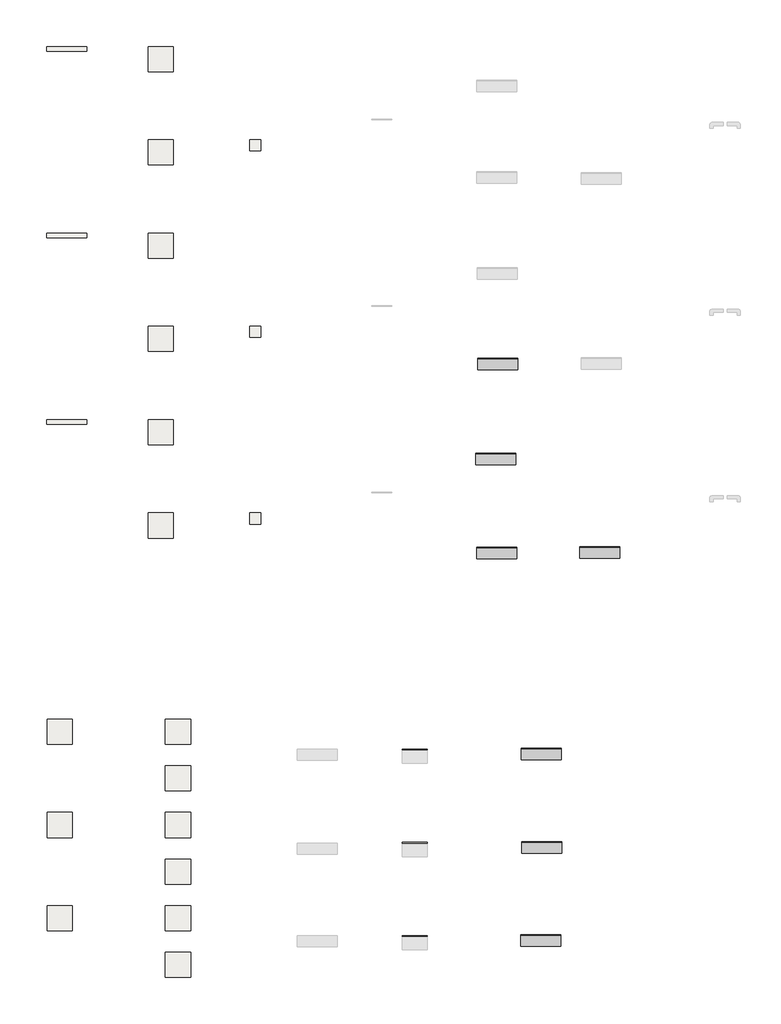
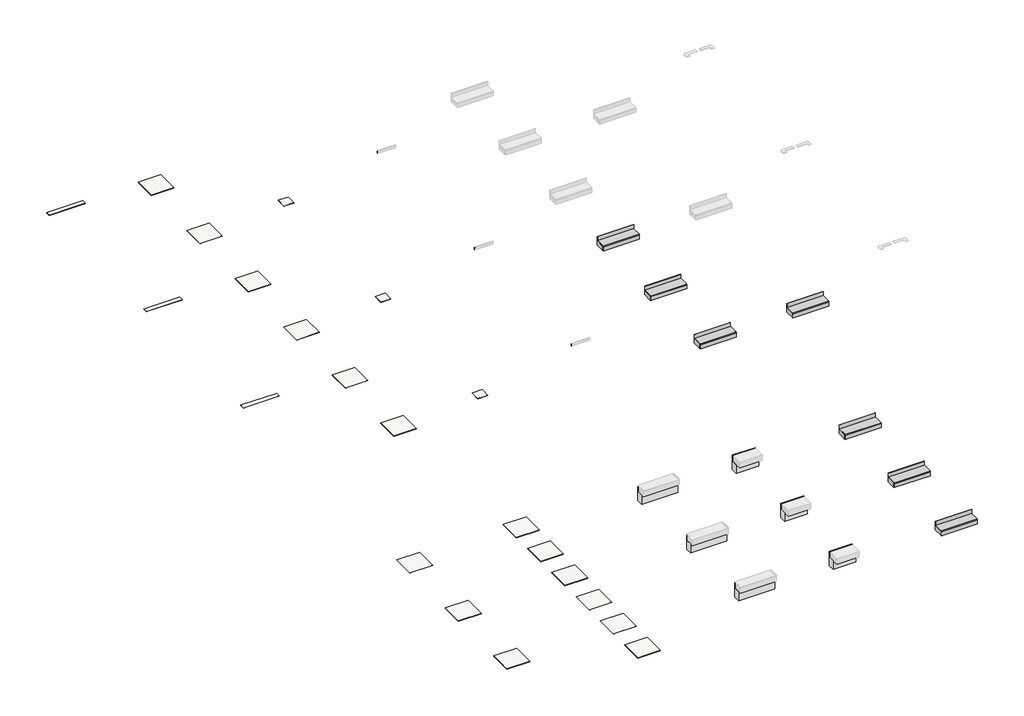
# One storey, part 1 of 2: 21 slabs, 9 walls, 7 stair flights.
"""IFC4 building model written with IfcOpenShell, lengths in millimetres."""

from ifc_helpers import new_model, si_unit, frame, origin, place, context, project, spatial, polyline, outline, extrude, faceted_brep, element, save

model = new_model("IFC4")

# Units and contexts
model_context = context("Model", 3, world=origin())
ifc_project = project(units=[si_unit("LENGTHUNIT", "METRE", prefix="MILLI")], contexts=[model_context])

# Site, building, storey
site = spatial("IfcSite", under=ifc_project)
building = spatial("IfcBuilding", under=site)
storey = spatial("IfcBuildingStorey", under=building, Name="EXAGRES_Serie MILAN_Catalogo", Elevation=5000.0)

# Slabs
placement = place(None, origin())
element("IfcSlab", 1, ObjectType="Exagres_Milan_Arena_Base_14,5x120_C1_Rect", at=placement, inside=storey, context=model_context, shape_type="SweptSolid", body=[
    extrude(outline(polyline([(-28.1781102, 784.4826442), (-28.1781102, 637.4826442), (-1230.1781102, 637.4826442), (-1230.1781102, 784.4826442), (-28.1781102, 784.4826442)])), frame((0.0, 0.0, 4989.0), z_axis=(0.0, 0.0, 1.0), x_axis=(1.0, 0.0, 0.0)), (0.0, 0.0, 1.0), 11.0),
])
element("IfcSlab", 2, ObjectType="Exagres_Milan_Gris_Base_14,5x120_C1_Rect", at=placement, inside=storey, context=model_context, shape_type="SweptSolid", body=[
    extrude(outline(polyline([(-28.1781102, -4815.5173558), (-28.1781102, -4962.5173558), (-1230.1781102, -4962.5173558), (-1230.1781102, -4815.5173558), (-28.1781102, -4815.5173558)])), frame((0.0, 0.0, 4989.0), z_axis=(0.0, 0.0, 1.0), x_axis=(1.0, 0.0, 0.0)), (0.0, 0.0, 1.0), 11.0),
])
element("IfcSlab", 3, ObjectType="Exagres_Milan_Marengo_Base_14,5x120_C1_Rect", at=placement, inside=storey, context=model_context, shape_type="SweptSolid", body=[
    extrude(outline(polyline([(-28.1781102, -10415.5173558), (-28.1781102, -10562.5173558), (-1230.1781102, -10562.5173558), (-1230.1781102, -10415.5173558), (-28.1781102, -10415.5173558)])), frame((0.0, 0.0, 4989.0), z_axis=(0.0, 0.0, 1.0), x_axis=(1.0, 0.0, 0.0)), (0.0, 0.0, 1.0), 11.0),
])
element("IfcSlab", 4, ObjectType="Exagres_Milan_Arena_Base_75x75_C1_Rect", at=placement, inside=storey, context=model_context, shape_type="SweptSolid", body=[
    extrude(outline(polyline([(2571.8218898, 784.4826442), (2571.8218898, 32.4826442), (1819.8218898, 32.4826442), (1819.8218898, 784.4826442), (2571.8218898, 784.4826442)])), frame((0.0, 0.0, 4989.0), z_axis=(0.0, 0.0, 1.0), x_axis=(1.0, 0.0, 0.0)), (0.0, 0.0, 1.0), 11.0),
])
element("IfcSlab", 5, ObjectType="Exagres_Milan_Arena_Base_75x75_C3_Rect", at=placement, inside=storey, context=model_context, shape_type="SweptSolid", body=[
    extrude(outline(polyline([(2574.8218898, -2015.5173558), (2574.8218898, -2770.5173558), (1819.8218898, -2770.5173558), (1819.8218898, -2015.5173558), (2574.8218898, -2015.5173558)])), frame((0.0, 0.0, 4989.0), z_axis=(0.0, 0.0, 1.0), x_axis=(1.0, 0.0, 0.0)), (0.0, 0.0, 1.0), 11.0),
])
element("IfcSlab", 6, ObjectType="Exagres_Milan_Gris_Base_75x75_C1_Rect", at=placement, inside=storey, context=model_context, shape_type="SweptSolid", body=[
    extrude(outline(polyline([(2571.8218898, -4815.5173558), (2571.8218898, -5567.5173558), (1819.8218898, -5567.5173558), (1819.8218898, -4815.5173558), (2571.8218898, -4815.5173558)])), frame((0.0, 0.0, 4989.0), z_axis=(0.0, 0.0, 1.0), x_axis=(1.0, 0.0, 0.0)), (0.0, 0.0, 1.0), 11.0),
])
element("IfcSlab", 7, ObjectType="Exagres_Milan_Gris_Base_75x75_C3_Rect", at=placement, inside=storey, context=model_context, shape_type="SweptSolid", body=[
    extrude(outline(polyline([(2574.8218898, -7615.5173558), (2574.8218898, -8370.5173558), (1819.8218898, -8370.5173558), (1819.8218898, -7615.5173558), (2574.8218898, -7615.5173558)])), frame((0.0, 0.0, 4989.0), z_axis=(0.0, 0.0, 1.0), x_axis=(1.0, 0.0, 0.0)), (0.0, 0.0, 1.0), 11.0),
])
element("IfcSlab", 8, ObjectType="Exagres_Milan_Marengo_Base_75x75_C1_Rect", at=placement, inside=storey, context=model_context, shape_type="SweptSolid", body=[
    extrude(outline(polyline([(2571.8218898, -10415.5173558), (2571.8218898, -11167.5173558), (1819.8218898, -11167.5173558), (1819.8218898, -10415.5173558), (2571.8218898, -10415.5173558)])), frame((0.0, 0.0, 4989.0), z_axis=(0.0, 0.0, 1.0), x_axis=(1.0, 0.0, 0.0)), (0.0, 0.0, 1.0), 11.0),
])
element("IfcSlab", 9, ObjectType="Exagres_Milan_Marengo_Base_75x75_C3_Rect", at=placement, inside=storey, context=model_context, shape_type="SweptSolid", body=[
    extrude(outline(polyline([(2574.8218898, -13215.5173558), (2574.8218898, -13970.5173558), (1819.8218898, -13970.5173558), (1819.8218898, -13215.5173558), (2574.8218898, -13215.5173558)])), frame((0.0, 0.0, 4989.0), z_axis=(0.0, 0.0, 1.0), x_axis=(1.0, 0.0, 0.0)), (0.0, 0.0, 1.0), 11.0),
])
element("IfcSlab", 10, ObjectType="Exagres_Milan_Arena_Base_33x33_C3", at=placement, inside=storey, context=model_context, shape_type="SweptSolid", body=[
    extrude(outline(polyline([(5204.8218898, -2015.5173558), (5204.8218898, -2350.5173558), (4869.8218898, -2350.5173558), (4869.8218898, -2015.5173558), (5204.8218898, -2015.5173558)])), frame((0.0, 0.0, 4990.0), z_axis=(0.0, 0.0, 1.0), x_axis=(1.0, 0.0, 0.0)), (0.0, 0.0, 1.0), 10.0),
])
element("IfcSlab", 11, ObjectType="Exagres_Milan_Gris_Base_33x33_C3", at=placement, inside=storey, context=model_context, shape_type="SweptSolid", body=[
    extrude(outline(polyline([(5204.8218898, -7615.5173558), (5204.8218898, -7950.5173558), (4869.8218898, -7950.5173558), (4869.8218898, -7615.5173558), (5204.8218898, -7615.5173558)])), frame((0.0, 0.0, 4990.0), z_axis=(0.0, 0.0, 1.0), x_axis=(1.0, 0.0, 0.0)), (0.0, 0.0, 1.0), 10.0),
])
element("IfcSlab", 12, ObjectType="Exagres_Milan_Marengo_Base_33x33_C3", at=placement, inside=storey, context=model_context, shape_type="SweptSolid", body=[
    extrude(outline(polyline([(5204.8218898, -13215.5173558), (5204.8218898, -13550.5173558), (4869.8218898, -13550.5173558), (4869.8218898, -13215.5173558), (5204.8218898, -13215.5173558)])), frame((0.0, 0.0, 4990.0), z_axis=(0.0, 0.0, 1.0), x_axis=(1.0, 0.0, 0.0)), (0.0, 0.0, 1.0), 10.0),
])
element("IfcSlab", 13, ObjectType="Exagres_Milan_Arena_Piscina_75x75_C1_Rect", at=placement, inside=storey, context=model_context, shape_type="SweptSolid", body=[
    extrude(outline(polyline([(-457.155725, -19408.4497575), (-457.155725, -20163.4497575), (-1212.155725, -20163.4497575), (-1212.155725, -19408.4497575), (-457.155725, -19408.4497575)])), frame((0.0, 0.0, 4989.0), z_axis=(0.0, 0.0, 1.0), x_axis=(1.0, 0.0, 0.0)), (0.0, 0.0, 1.0), 11.0),
])
element("IfcSlab", 14, ObjectType="Exagres_Milan_Arena_Piscina_75x75_C3_Rect", at=placement, inside=storey, context=model_context, shape_type="SweptSolid", body=[
    extrude(outline(polyline([(3092.844275, -20808.4497575), (3092.844275, -21563.4497575), (2337.844275, -21563.4497575), (2337.844275, -20808.4497575), (3092.844275, -20808.4497575)])), frame((0.0, 0.0, 4989.0), z_axis=(0.0, 0.0, 1.0), x_axis=(1.0, 0.0, 0.0)), (0.0, 0.0, 1.0), 11.0),
])
element("IfcSlab", 15, ObjectType="Exagres_Milan_Gris_Piscina_75x75_C1_Rect", at=placement, inside=storey, context=model_context, shape_type="SweptSolid", body=[
    extrude(outline(polyline([(-457.155725, -22208.4497575), (-457.155725, -22963.4497575), (-1212.155725, -22963.4497575), (-1212.155725, -22208.4497575), (-457.155725, -22208.4497575)])), frame((0.0, 0.0, 4989.0), z_axis=(0.0, 0.0, 1.0), x_axis=(1.0, 0.0, 0.0)), (0.0, 0.0, 1.0), 11.0),
])
element("IfcSlab", 16, ObjectType="Exagres_Milan_Gris_Piscina_75x75_C3_Rect", at=placement, inside=storey, context=model_context, shape_type="SweptSolid", body=[
    extrude(outline(polyline([(3092.844275, -23608.4497575), (3092.844275, -24363.4497575), (2337.844275, -24363.4497575), (2337.844275, -23608.4497575), (3092.844275, -23608.4497575)])), frame((0.0, 0.0, 4989.0), z_axis=(0.0, 0.0, 1.0), x_axis=(1.0, 0.0, 0.0)), (0.0, 0.0, 1.0), 11.0),
])
element("IfcSlab", 17, ObjectType="Exagres_Milan_Marengo_Piscina_75x75_C1_Rect", at=placement, inside=storey, context=model_context, shape_type="SweptSolid", body=[
    extrude(outline(polyline([(-457.155725, -25008.4497575), (-457.155725, -25763.4497575), (-1212.155725, -25763.4497575), (-1212.155725, -25008.4497575), (-457.155725, -25008.4497575)])), frame((0.0, 0.0, 4989.0), z_axis=(0.0, 0.0, 1.0), x_axis=(1.0, 0.0, 0.0)), (0.0, 0.0, 1.0), 11.0),
])
element("IfcSlab", 18, ObjectType="Exagres_Milan_Marengo_Piscina_75x75_C3_Rect", at=placement, inside=storey, context=model_context, shape_type="SweptSolid", body=[
    extrude(outline(polyline([(3092.844275, -26408.4497575), (3092.844275, -27163.4497575), (2337.844275, -27163.4497575), (2337.844275, -26408.4497575), (3092.844275, -26408.4497575)])), frame((0.0, 0.0, 4989.0), z_axis=(0.0, 0.0, 1.0), x_axis=(1.0, 0.0, 0.0)), (0.0, 0.0, 1.0), 11.0),
])
element("IfcSlab", 19, ObjectType="Exagres_Milan_Arena_Piscina_75x75_C1_Rect", at=placement, inside=storey, context=model_context, shape_type="SweptSolid", body=[
    extrude(outline(polyline([(3092.844275, -19408.4497575), (3092.844275, -20163.4497575), (2337.844275, -20163.4497575), (2337.844275, -19408.4497575), (3092.844275, -19408.4497575)])), frame((0.0, 0.0, 4989.0), z_axis=(0.0, 0.0, 1.0), x_axis=(1.0, 0.0, 0.0)), (0.0, 0.0, 1.0), 11.0),
])
element("IfcSlab", 20, ObjectType="Exagres_Milan_Gris_Piscina_75x75_C1_Rect", at=placement, inside=storey, context=model_context, shape_type="SweptSolid", body=[
    extrude(outline(polyline([(3092.844275, -22208.4497575), (3092.844275, -22963.4497575), (2337.844275, -22963.4497575), (2337.844275, -22208.4497575), (3092.844275, -22208.4497575)])), frame((0.0, 0.0, 4989.0), z_axis=(0.0, 0.0, 1.0), x_axis=(1.0, 0.0, 0.0)), (0.0, 0.0, 1.0), 11.0),
])
element("IfcSlab", 21, ObjectType="Exagres_Milan_Marengo_Piscina_75x75_C1_Rect", at=placement, inside=storey, context=model_context, shape_type="SweptSolid", body=[
    extrude(outline(polyline([(3092.844275, -25008.4497575), (3092.844275, -25763.4497575), (2337.844275, -25763.4497575), (2337.844275, -25008.4497575), (3092.844275, -25008.4497575)])), frame((0.0, 0.0, 4989.0), z_axis=(0.0, 0.0, 1.0), x_axis=(1.0, 0.0, 0.0)), (0.0, 0.0, 1.0), 11.0),
])

# Stair flights
element("IfcStairFlight", 22, ObjectType="EXAGRES_Recto - Milán Gris C3", at=placement, inside=storey, context=model_context, shape_type="SweptSolid", body=[
    extrude(outline(polyline([(11721.0701188, -8906.3577504), (11721.0701188, -8576.3577504), (12921.0701188, -8576.3577504), (12921.0701188, -8906.3577504), (11721.0701188, -8906.3577504)])), frame((0.0, 0.0, 5000.0), z_axis=(0.0, 0.0, 1.0), x_axis=(1.0, 0.0, 0.0)), (0.0, 0.0, 1.0), 151.6666667),
    extrude(outline(polyline([(-8576.3577504, 5151.6666667), (-8903.4482015, 5151.6666667), (-8903.4482015, 5154.6666667), (-8908.3577504, 5154.6666667), (-8908.3577504, 5147.6666667), (-8909.3577504, 5147.6666667), (-8909.3577504, 5141.6666667), (-8908.3577504, 5141.6666667), (-8908.3577504, 5133.6666667), (-8921.3577504, 5133.6666667), (-8921.3577504, 5166.6666667), (-8576.3577504, 5166.6666667), (-8576.3577504, 5151.6666667)])), frame((11721.0701188, 0.0, 0.0), z_axis=(1.0, 0.0, 0.0), x_axis=(0.0, 1.0, 0.0)), (0.0, 0.0, 1.0), 1200.0),
    extrude(outline(polyline([(12921.0701188, -8906.3577504), (12921.0701188, -8921.3577504), (11721.0701188, -8921.3577504), (11721.0701188, -8906.3577504), (12921.0701188, -8906.3577504)])), frame((0.0, 0.0, 5000.0), z_axis=(0.0, 0.0, 1.0), x_axis=(1.0, 0.0, 0.0)), (0.0, 0.0, 1.0), 133.6666667),
    extrude(outline(polyline([(12921.0701188, -8576.3577504), (12921.0701188, -8591.3577504), (11721.0701188, -8591.3577504), (11721.0701188, -8576.3577504), (12921.0701188, -8576.3577504)])), frame((0.0, 0.0, 5166.6666667), z_axis=(0.0, 0.0, 1.0), x_axis=(1.0, 0.0, 0.0)), (0.0, 0.0, 1.0), 133.6666667),
])
element("IfcStairFlight", 23, ObjectType="EXAGRES_Recto - Milán Marengo C3", at=placement, inside=storey, context=model_context, shape_type="SweptSolid", body=[
    extrude(outline(polyline([(11680.537934, -14572.5839781), (11680.537934, -14242.5839781), (12880.537934, -14242.5839781), (12880.537934, -14572.5839781), (11680.537934, -14572.5839781)])), frame((0.0, 0.0, 5000.0), z_axis=(0.0, 0.0, 1.0), x_axis=(1.0, 0.0, 0.0)), (0.0, 0.0, 1.0), 151.6666667),
    extrude(outline(polyline([(-14242.5839781, 5151.6666667), (-14569.6744292, 5151.6666667), (-14569.6744292, 5154.6666667), (-14574.5839781, 5154.6666667), (-14574.5839781, 5147.6666667), (-14575.5839781, 5147.6666667), (-14575.5839781, 5141.6666667), (-14574.5839781, 5141.6666667), (-14574.5839781, 5133.6666667), (-14587.5839781, 5133.6666667), (-14587.5839781, 5166.6666667), (-14242.5839781, 5166.6666667), (-14242.5839781, 5151.6666667)])), frame((11680.537934, 0.0, 0.0), z_axis=(1.0, 0.0, 0.0), x_axis=(0.0, 1.0, 0.0)), (0.0, 0.0, 1.0), 1200.0),
    extrude(outline(polyline([(12880.537934, -14572.5839781), (12880.537934, -14587.5839781), (11680.537934, -14587.5839781), (11680.537934, -14572.5839781), (12880.537934, -14572.5839781)])), frame((0.0, 0.0, 5000.0), z_axis=(0.0, 0.0, 1.0), x_axis=(1.0, 0.0, 0.0)), (0.0, 0.0, 1.0), 133.6666667),
    extrude(outline(polyline([(12880.537934, -14242.5839781), (12880.537934, -14257.5839781), (11680.537934, -14257.5839781), (11680.537934, -14242.5839781), (12880.537934, -14242.5839781)])), frame((0.0, 0.0, 5166.6666667), z_axis=(0.0, 0.0, 1.0), x_axis=(1.0, 0.0, 0.0)), (0.0, 0.0, 1.0), 133.6666667),
])
element("IfcStairFlight", 24, ObjectType="EXAGRES_Recto - Milán Marengo C1", at=placement, inside=storey, context=model_context, shape_type="SweptSolid", body=[
    extrude(outline(polyline([(11653.0707994, -11752.5173558), (11653.0707994, -11422.5173558), (12853.0707994, -11422.5173558), (12853.0707994, -11752.5173558), (11653.0707994, -11752.5173558)])), frame((0.0, 0.0, 5000.0), z_axis=(0.0, 0.0, 1.0), x_axis=(1.0, 0.0, 0.0)), (0.0, 0.0, 1.0), 151.6666667),
    extrude(outline(polyline([(-11422.5173558, 5151.6666667), (-11749.6078069, 5151.6666667), (-11749.6078069, 5154.6666667), (-11754.5173558, 5154.6666667), (-11754.5173558, 5147.6666667), (-11755.5173558, 5147.6666667), (-11755.5173558, 5141.6666667), (-11754.5173558, 5141.6666667), (-11754.5173558, 5133.6666667), (-11767.5173558, 5133.6666667), (-11767.5173558, 5166.6666667), (-11422.5173558, 5166.6666667), (-11422.5173558, 5151.6666667)])), frame((11653.0707994, 0.0, 0.0), z_axis=(1.0, 0.0, 0.0), x_axis=(0.0, 1.0, 0.0)), (0.0, 0.0, 1.0), 1200.0),
    extrude(outline(polyline([(12853.0707994, -11752.5173558), (12853.0707994, -11767.5173558), (11653.0707994, -11767.5173558), (11653.0707994, -11752.5173558), (12853.0707994, -11752.5173558)])), frame((0.0, 0.0, 5000.0), z_axis=(0.0, 0.0, 1.0), x_axis=(1.0, 0.0, 0.0)), (0.0, 0.0, 1.0), 133.6666667),
    extrude(outline(polyline([(12853.0707994, -11422.5173558), (12853.0707994, -11437.5173558), (11653.0707994, -11437.5173558), (11653.0707994, -11422.5173558), (12853.0707994, -11422.5173558)])), frame((0.0, 0.0, 5166.6666667), z_axis=(0.0, 0.0, 1.0), x_axis=(1.0, 0.0, 0.0)), (0.0, 0.0, 1.0), 133.6666667),
])
element("IfcStairFlight", 25, ObjectType="EXAGRES_Recto_33x33 - Milán Marengo C3", at=placement, inside=storey, context=model_context, shape_type="SweptSolid", body=[
    extrude(outline(polyline([(14777.6650181, -14562.7282448), (14777.6650181, -14232.7282448), (15977.6650181, -14232.7282448), (15977.6650181, -14562.7282448), (14777.6650181, -14562.7282448)])), frame((0.0, 0.0, 5000.0), z_axis=(0.0, 0.0, 1.0), x_axis=(1.0, 0.0, 0.0)), (0.0, 0.0, 1.0), 151.6666667),
    extrude(outline(polyline([(-14232.7282448, 5151.6666667), (-14559.8186959, 5151.6666667), (-14559.8186959, 5154.6666667), (-14564.7282448, 5154.6666667), (-14564.7282448, 5147.6666667), (-14565.7282448, 5147.6666667), (-14565.7282448, 5141.6666667), (-14564.7282448, 5141.6666667), (-14564.7282448, 5133.6666667), (-14577.7282448, 5133.6666667), (-14577.7282448, 5166.6666667), (-14232.7282448, 5166.6666667), (-14232.7282448, 5151.6666667)])), frame((14777.6650181, 0.0, 0.0), z_axis=(1.0, 0.0, 0.0), x_axis=(0.0, 1.0, 0.0)), (0.0, 0.0, 1.0), 1200.0),
    extrude(outline(polyline([(15977.6650181, -14562.7282448), (15977.6650181, -14577.7282448), (14777.6650181, -14577.7282448), (14777.6650181, -14562.7282448), (15977.6650181, -14562.7282448)])), frame((0.0, 0.0, 5000.0), z_axis=(0.0, 0.0, 1.0), x_axis=(1.0, 0.0, 0.0)), (0.0, 0.0, 1.0), 133.6666667),
    extrude(outline(polyline([(15977.6650181, -14232.7282448), (15977.6650181, -14247.7282448), (14777.6650181, -14247.7282448), (14777.6650181, -14232.7282448), (15977.6650181, -14232.7282448)])), frame((0.0, 0.0, 5166.6666667), z_axis=(0.0, 0.0, 1.0), x_axis=(1.0, 0.0, 0.0)), (0.0, 0.0, 1.0), 133.6666667),
])
element("IfcStairFlight", 26, ObjectType="EXAGRES_Recto - Milán Arena C3", at=placement, inside=storey, context=model_context, shape_type="SweptSolid", body=[
    extrude(outline(polyline([(13018.7377741, -20619.625771), (13018.7377741, -20289.625771), (14218.7377741, -20289.625771), (14218.7377741, -20619.625771), (13018.7377741, -20619.625771)])), frame((0.0, 0.0, 5000.0), z_axis=(0.0, 0.0, 1.0), x_axis=(1.0, 0.0, 0.0)), (0.0, 0.0, 1.0), 155.0),
    extrude(outline(polyline([(-20289.625771, 5155.0), (-20616.7162221, 5155.0), (-20616.7162221, 5158.0), (-20621.625771, 5158.0), (-20621.625771, 5151.0), (-20622.625771, 5151.0), (-20622.625771, 5145.0), (-20621.625771, 5145.0), (-20621.625771, 5137.0), (-20634.625771, 5137.0), (-20634.625771, 5170.0), (-20289.625771, 5170.0), (-20289.625771, 5155.0)])), frame((13018.7377741, 0.0, 0.0), z_axis=(1.0, 0.0, 0.0), x_axis=(0.0, 1.0, 0.0)), (0.0, 0.0, 1.0), 1200.0),
    extrude(outline(polyline([(14218.7377741, -20619.625771), (14218.7377741, -20634.625771), (13018.7377741, -20634.625771), (13018.7377741, -20619.625771), (14218.7377741, -20619.625771)])), frame((0.0, 0.0, 5000.0), z_axis=(0.0, 0.0, 1.0), x_axis=(1.0, 0.0, 0.0)), (0.0, 0.0, 1.0), 137.0),
    extrude(outline(polyline([(14218.7377741, -20289.625771), (14218.7377741, -20304.625771), (13018.7377741, -20304.625771), (13018.7377741, -20289.625771), (14218.7377741, -20289.625771)])), frame((0.0, 0.0, 5170.0), z_axis=(0.0, 0.0, 1.0), x_axis=(1.0, 0.0, 0.0)), (0.0, 0.0, 1.0), 137.0),
])
element("IfcStairFlight", 27, ObjectType="EXAGRES_Recto - Milán Gris C3", at=placement, inside=storey, context=model_context, shape_type="SweptSolid", body=[
    extrude(outline(polyline([(13030.5286038, -23426.8241111), (13030.5286038, -23096.8241111), (14230.5286038, -23096.8241111), (14230.5286038, -23426.8241111), (13030.5286038, -23426.8241111)])), frame((0.0, 0.0, 5000.0), z_axis=(0.0, 0.0, 1.0), x_axis=(1.0, 0.0, 0.0)), (0.0, 0.0, 1.0), 155.0),
    extrude(outline(polyline([(-23096.8241111, 5155.0), (-23423.9145622, 5155.0), (-23423.9145622, 5158.0), (-23428.8241111, 5158.0), (-23428.8241111, 5151.0), (-23429.8241111, 5151.0), (-23429.8241111, 5145.0), (-23428.8241111, 5145.0), (-23428.8241111, 5137.0), (-23441.8241111, 5137.0), (-23441.8241111, 5170.0), (-23096.8241111, 5170.0), (-23096.8241111, 5155.0)])), frame((13030.5286038, 0.0, 0.0), z_axis=(1.0, 0.0, 0.0), x_axis=(0.0, 1.0, 0.0)), (0.0, 0.0, 1.0), 1200.0),
    extrude(outline(polyline([(14230.5286038, -23426.8241111), (14230.5286038, -23441.8241111), (13030.5286038, -23441.8241111), (13030.5286038, -23426.8241111), (14230.5286038, -23426.8241111)])), frame((0.0, 0.0, 5000.0), z_axis=(0.0, 0.0, 1.0), x_axis=(1.0, 0.0, 0.0)), (0.0, 0.0, 1.0), 137.0),
    extrude(outline(polyline([(14230.5286038, -23096.8241111), (14230.5286038, -23111.8241111), (13030.5286038, -23111.8241111), (13030.5286038, -23096.8241111), (14230.5286038, -23096.8241111)])), frame((0.0, 0.0, 5170.0), z_axis=(0.0, 0.0, 1.0), x_axis=(1.0, 0.0, 0.0)), (0.0, 0.0, 1.0), 137.0),
])
element("IfcStairFlight", 28, ObjectType="EXAGRES_Recto - Milán Marengo C3", at=placement, inside=storey, context=model_context, shape_type="SweptSolid", body=[
    extrude(outline(polyline([(13000.8480722, -26214.1038833), (13000.8480722, -25884.1038833), (14200.8480722, -25884.1038833), (14200.8480722, -26214.1038833), (13000.8480722, -26214.1038833)])), frame((0.0, 0.0, 5000.0), z_axis=(0.0, 0.0, 1.0), x_axis=(1.0, 0.0, 0.0)), (0.0, 0.0, 1.0), 155.0),
    extrude(outline(polyline([(-25884.1038833, 5155.0), (-26211.1943344, 5155.0), (-26211.1943344, 5158.0), (-26216.1038833, 5158.0), (-26216.1038833, 5151.0), (-26217.1038833, 5151.0), (-26217.1038833, 5145.0), (-26216.1038833, 5145.0), (-26216.1038833, 5137.0), (-26229.1038833, 5137.0), (-26229.1038833, 5170.0), (-25884.1038833, 5170.0), (-25884.1038833, 5155.0)])), frame((13000.8480722, 0.0, 0.0), z_axis=(1.0, 0.0, 0.0), x_axis=(0.0, 1.0, 0.0)), (0.0, 0.0, 1.0), 1200.0),
    extrude(outline(polyline([(14200.8480722, -26214.1038833), (14200.8480722, -26229.1038833), (13000.8480722, -26229.1038833), (13000.8480722, -26214.1038833), (14200.8480722, -26214.1038833)])), frame((0.0, 0.0, 5000.0), z_axis=(0.0, 0.0, 1.0), x_axis=(1.0, 0.0, 0.0)), (0.0, 0.0, 1.0), 137.0),
    extrude(outline(polyline([(14200.8480722, -25884.1038833), (14200.8480722, -25899.1038833), (13000.8480722, -25899.1038833), (13000.8480722, -25884.1038833), (14200.8480722, -25884.1038833)])), frame((0.0, 0.0, 5170.0), z_axis=(0.0, 0.0, 1.0), x_axis=(1.0, 0.0, 0.0)), (0.0, 0.0, 1.0), 137.0),
])

# Walls
element("IfcWall", 29, ObjectType="Muro básico:muro", at=placement, inside=storey, context=model_context, shape_type="SweptSolid", body=[
    extrude(outline(polyline([(9132.990681, -1402.2299086), (8532.990681, -1402.2299086), (8532.990681, -1401.2299086), (9132.990681, -1401.2299086), (9132.990681, -1402.2299086)])), frame((0.0, 0.0, 5000.0), z_axis=(0.0, 0.0, 1.0), x_axis=(1.0, 0.0, 0.0)), (0.0, 0.0, 1.0), 75.0),
])
element("IfcWall", 30, ObjectType="Muro básico:muro", at=placement, inside=storey, context=model_context, shape_type="SweptSolid", body=[
    extrude(outline(polyline([(9132.990681, -7002.2299086), (8532.990681, -7002.2299086), (8532.990681, -7001.2299086), (9132.990681, -7001.2299086), (9132.990681, -7002.2299086)])), frame((0.0, 0.0, 5000.0), z_axis=(0.0, 0.0, 1.0), x_axis=(1.0, 0.0, 0.0)), (0.0, 0.0, 1.0), 75.0),
])
element("IfcWall", 31, ObjectType="Muro básico:muro", at=placement, inside=storey, context=model_context, shape_type="SweptSolid", body=[
    extrude(outline(polyline([(9132.990681, -12602.2299086), (8532.990681, -12602.2299086), (8532.990681, -12601.2299086), (9132.990681, -12601.2299086), (9132.990681, -12602.2299086)])), frame((0.0, 0.0, 5000.0), z_axis=(0.0, 0.0, 1.0), x_axis=(1.0, 0.0, 0.0)), (0.0, 0.0, 1.0), 75.0),
])
element("IfcWall", 32, ObjectType="Exagres_Piscina Skimmer - Peldaño 33x120 - Milan Arena -", at=placement, inside=storey, context=model_context, shape_type="Brep", body=[
    faceted_brep([(6298.0543811, -20533.4497575, 5000.0), (7500.0543811, -20533.4497575, 5000.0), (7500.0543811, -20533.4497575, 5318.74), (6298.0543811, -20533.4497575, 5318.74), (7500.0543811, -20308.4497575, 5000.0), (6298.0543811, -20308.4497575, 5000.0), (6298.0543811, -20308.4497575, 5500.0), (7500.0543811, -20308.4497575, 5500.0), (7500.0543811, -20321.4497575, 5500.0), (7500.0543811, -20323.4497575, 5500.0), (7500.0543811, -20323.4497575, 5318.74), (6298.0543811, -20321.4497575, 5500.0), (6298.0543811, -20323.4497575, 5500.0), (6298.0543811, -20323.4497575, 5318.74)], [[[0, 1, 2, 3]], [[4, 5, 6, 7]], [[1, 0, 5, 4]], [[4, 7, 8, 9, 10, 2, 1]], [[7, 6, 11, 12, 9, 8]], [[6, 5, 0, 3, 13, 12, 11]], [[10, 13, 3, 2]], [[13, 10, 9, 12]]]),
])
element("IfcWall", 33, ObjectType="Exagres_Piscina Skimmer - Peldaño 33x120 - Milan Gris -", at=placement, inside=storey, context=model_context, shape_type="Brep", body=[
    faceted_brep([(6298.0543811, -23358.4497575, 5000.0), (7500.0543811, -23358.4497575, 5000.0), (7500.0543811, -23358.4497575, 5318.74), (6298.0543811, -23358.4497575, 5318.74), (7500.0543811, -23133.4497575, 5000.0), (6298.0543811, -23133.4497575, 5000.0), (6298.0543811, -23133.4497575, 5500.0), (7500.0543811, -23133.4497575, 5500.0), (7500.0543811, -23146.4497575, 5500.0), (7500.0543811, -23148.4497575, 5500.0), (7500.0543811, -23148.4497575, 5318.74), (6298.0543811, -23146.4497575, 5500.0), (6298.0543811, -23148.4497575, 5500.0), (6298.0543811, -23148.4497575, 5318.74)], [[[0, 1, 2, 3]], [[4, 5, 6, 7]], [[1, 0, 5, 4]], [[4, 7, 8, 9, 10, 2, 1]], [[7, 6, 11, 12, 9, 8]], [[6, 5, 0, 3, 13, 12, 11]], [[10, 13, 3, 2]], [[13, 10, 9, 12]]]),
])
element("IfcWall", 34, ObjectType="Exagres_Piscina Skimmer - Peldaño 33x120 - Milan Marengo -", at=placement, inside=storey, context=model_context, shape_type="Brep", body=[
    faceted_brep([(6298.0543811, -26133.4497575, 5000.0), (7500.0543811, -26133.4497575, 5000.0), (7500.0543811, -26133.4497575, 5318.74), (6298.0543811, -26133.4497575, 5318.74), (7500.0543811, -25908.4497575, 5000.0), (6298.0543811, -25908.4497575, 5000.0), (6298.0543811, -25908.4497575, 5500.0), (7500.0543811, -25908.4497575, 5500.0), (7500.0543811, -25921.4497575, 5500.0), (7500.0543811, -25923.4497575, 5500.0), (7500.0543811, -25923.4497575, 5318.74), (6298.0543811, -25921.4497575, 5500.0), (6298.0543811, -25923.4497575, 5500.0), (6298.0543811, -25923.4497575, 5318.74)], [[[0, 1, 2, 3]], [[4, 5, 6, 7]], [[1, 0, 5, 4]], [[4, 7, 8, 9, 10, 2, 1]], [[7, 6, 11, 12, 9, 8]], [[6, 5, 0, 3, 13, 12, 11]], [[10, 13, 3, 2]], [[13, 10, 9, 12]]]),
])
element("IfcWall", 35, ObjectType="Exagres_Piscina Skimmer - Borde 45x75 - Milan Arena -", at=placement, inside=storey, context=model_context, shape_type="Brep", body=[
    faceted_brep([(9448.0543811, -20533.4497575, 5000.0), (10198.0543811, -20533.4497575, 5000.0), (10198.0543811, -20533.4497575, 5300.0), (9448.0543811, -20533.4497575, 5300.0), (10198.0543811, -20308.4497575, 5000.0), (9448.0543811, -20308.4497575, 5000.0), (9448.0543811, -20308.4497575, 5500.0), (10198.0543811, -20308.4497575, 5500.0), (10198.0543811, -20320.6664211, 5500.0), (10198.0543811, -20325.8528519, 5500.0), (10198.0543811, -20333.4497575, 5500.0), (10198.0543811, -20333.4497575, 5300.0), (9448.0543811, -20320.6664211, 5500.0), (9448.0543811, -20325.8528519, 5500.0), (9448.0543811, -20333.4497575, 5500.0), (9448.0543811, -20333.4497575, 5300.0)], [[[0, 1, 2, 3]], [[4, 5, 6, 7]], [[1, 0, 5, 4]], [[4, 7, 8, 9, 10, 11, 2, 1]], [[7, 6, 12, 13, 14, 10, 9, 8]], [[6, 5, 0, 3, 15, 14, 13, 12]], [[11, 15, 3, 2]], [[15, 11, 10, 14]]]),
])
element("IfcWall", 36, ObjectType="Exagres_Piscina Skimmer - Borde 45x75 - Milan Gris -", at=placement, inside=storey, context=model_context, shape_type="Brep", body=[
    faceted_brep([(9448.0543811, -23333.4497575, 5000.0), (10198.0543811, -23333.4497575, 5000.0), (10198.0543811, -23333.4497575, 5300.0), (9448.0543811, -23333.4497575, 5300.0), (10198.0543811, -23108.4497575, 5000.0), (9448.0543811, -23108.4497575, 5000.0), (9448.0543811, -23108.4497575, 5500.0), (10198.0543811, -23108.4497575, 5500.0), (10198.0543811, -23120.6664211, 5500.0), (10198.0543811, -23125.8528519, 5500.0), (10198.0543811, -23133.4497575, 5500.0), (10198.0543811, -23133.4497575, 5300.0), (9448.0543811, -23120.6664211, 5500.0), (9448.0543811, -23125.8528519, 5500.0), (9448.0543811, -23133.4497575, 5500.0), (9448.0543811, -23133.4497575, 5300.0)], [[[0, 1, 2, 3]], [[4, 5, 6, 7]], [[1, 0, 5, 4]], [[4, 7, 8, 9, 10, 11, 2, 1]], [[7, 6, 12, 13, 14, 10, 9, 8]], [[6, 5, 0, 3, 15, 14, 13, 12]], [[11, 15, 3, 2]], [[15, 11, 10, 14]]]),
])
element("IfcWall", 37, ObjectType="Exagres_Piscina Skimmer - Borde 45x75 - Milan Marengo -", at=placement, inside=storey, context=model_context, shape_type="Brep", body=[
    faceted_brep([(9448.0543811, -26133.4497575, 5000.0), (10198.0543811, -26133.4497575, 5000.0), (10198.0543811, -26133.4497575, 5300.0), (9448.0543811, -26133.4497575, 5300.0), (10198.0543811, -25908.4497575, 5000.0), (9448.0543811, -25908.4497575, 5000.0), (9448.0543811, -25908.4497575, 5500.0), (10198.0543811, -25908.4497575, 5500.0), (10198.0543811, -25920.6664211, 5500.0), (10198.0543811, -25925.8528519, 5500.0), (10198.0543811, -25933.4497575, 5500.0), (10198.0543811, -25933.4497575, 5300.0), (9448.0543811, -25920.6664211, 5500.0), (9448.0543811, -25925.8528519, 5500.0), (9448.0543811, -25933.4497575, 5500.0), (9448.0543811, -25933.4497575, 5300.0)], [[[0, 1, 2, 3]], [[4, 5, 6, 7]], [[1, 0, 5, 4]], [[4, 7, 8, 9, 10, 11, 2, 1]], [[7, 6, 12, 13, 14, 10, 9, 8]], [[6, 5, 0, 3, 15, 14, 13, 12]], [[11, 15, 3, 2]], [[15, 11, 10, 14]]]),
])

save(model, "model.ifc")
